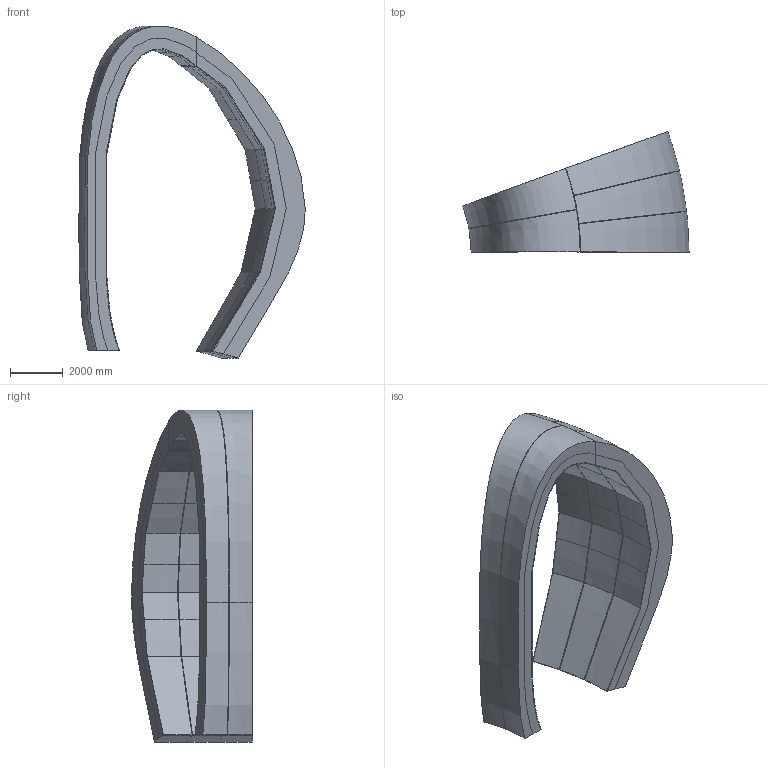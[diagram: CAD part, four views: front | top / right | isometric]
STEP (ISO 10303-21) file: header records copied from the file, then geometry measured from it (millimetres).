
FILE_DESCRIPTION(('FreeCAD Model'),'2;1');
FILE_NAME('Open CASCADE Shape Model','2026-10-11T08:36:59',('Bluemira'), ('Bluemira'),'Open CASCADE STEP processor 7.8','FreeCAD','Unknown');
FILE_SCHEMA(('AP242_MANAGED_MODEL_BASED_3D_ENGINEERING_MIM_LF. {1 0 10303 442 1 1 4 }'));
Length unit declared in the file: metre
Products named in the file (16): Unnamed; IBS_FW_0_1_1; IBS_FW_1_1_1; IBS_BZ_0_1_1; IBS_BZ_1_1_1; IBS_MANIFOLD_0_1_1; IBS_MANIFOLD_1_1_1; OBS_FW_0_1_1; OBS_FW_1_1_1; OBS_FW_2_1_1; OBS_BZ_0_1_1; OBS_BZ_1_1_1; OBS_BZ_2_1_1; OBS_MANIFOLD_0_1_1; OBS_MANIFOLD_1_1_1; OBS_MANIFOLD_2_1_1
Assembly tree (15 placements, depth 2):
  Unnamed
    IBS_FW_0_1_1
    IBS_FW_1_1_1
    IBS_BZ_0_1_1
    IBS_BZ_1_1_1
    IBS_MANIFOLD_0_1_1
    IBS_MANIFOLD_1_1_1
    OBS_FW_0_1_1
    OBS_FW_1_1_1
    OBS_FW_2_1_1
    OBS_BZ_0_1_1
    OBS_BZ_1_1_1
    OBS_BZ_2_1_1
    OBS_MANIFOLD_0_1_1
    OBS_MANIFOLD_1_1_1
    OBS_MANIFOLD_2_1_1
Bounding box: 8615.39 x 4600.89 x 12648.69 mm (x, y, z)
Volume: 85115660570.2 mm3; surface area: 645778793.6 mm2
Topology: 15 solids, 15 shells, 328 faces, 894 edges, 596 vertices
Faces by surface type: cone 238, plane 36, cylinder 33, revolution 21
Entity records: 32587 total; most frequent: CARTESIAN_POINT 16367, DIRECTION 2889, ORIENTED_EDGE 1788, PCURVE 1788, DEFINITIONAL_REPRESENTATION 1788, AXIS2_PLACEMENT_3D 1097, EDGE_CURVE 894, SURFACE_CURVE 894
